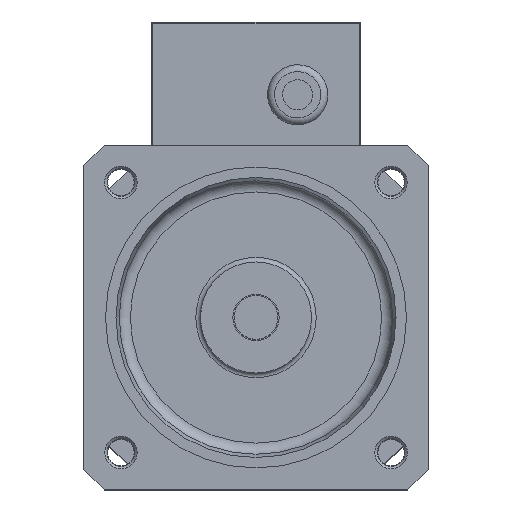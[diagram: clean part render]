
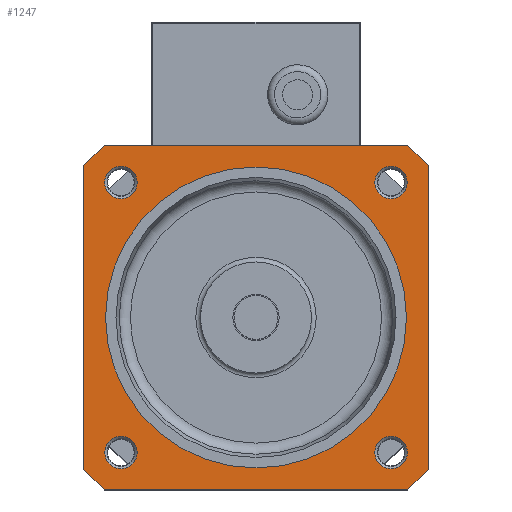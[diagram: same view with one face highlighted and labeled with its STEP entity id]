
A CAD part, top view. The second image highlights one B-rep face of the part: STEP entity #1247.
In plain terms, the highlighted planar face has unit normal (0, 0, 1).
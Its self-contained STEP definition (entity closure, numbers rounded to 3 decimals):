
#450=FACE_BOUND('',#3191,.T.);
#451=FACE_BOUND('',#3192,.T.);
#452=FACE_BOUND('',#3193,.T.);
#453=FACE_BOUND('',#3194,.T.);
#454=FACE_BOUND('',#3195,.T.);
#736=PLANE('',#14954);
#1247=ADVANCED_FACE('',(#450,#451,#452,#453,#454,#2452),#736,.T.);
#2452=FACE_OUTER_BOUND('',#3196,.T.);
#3191=EDGE_LOOP('',(#8082));
#3192=EDGE_LOOP('',(#8083));
#3193=EDGE_LOOP('',(#8084));
#3194=EDGE_LOOP('',(#8085));
#3195=EDGE_LOOP('',(#8086));
#3196=EDGE_LOOP('',(#8087,#8088,#8089,#8090,#8091,#8092,#8093,#8094));
#4346=LINE('',#22240,#5418);
#4347=LINE('',#22243,#5419);
#4348=LINE('',#22245,#5420);
#4349=LINE('',#22247,#5421);
#4350=LINE('',#22249,#5422);
#4351=LINE('',#22251,#5423);
#4352=LINE('',#22253,#5424);
#4353=LINE('',#22255,#5425);
#5418=VECTOR('',#18083,1.);
#5419=VECTOR('',#18084,1.);
#5420=VECTOR('',#18085,1.);
#5421=VECTOR('',#18086,1.);
#5422=VECTOR('',#18087,1.);
#5423=VECTOR('',#18088,1.);
#5424=VECTOR('',#18089,1.);
#5425=VECTOR('',#18090,1.);
#8082=ORIENTED_EDGE('',*,*,#12400,.T.);
#8083=ORIENTED_EDGE('',*,*,#12401,.T.);
#8084=ORIENTED_EDGE('',*,*,#12402,.T.);
#8085=ORIENTED_EDGE('',*,*,#12403,.T.);
#8086=ORIENTED_EDGE('',*,*,#12404,.F.);
#8087=ORIENTED_EDGE('',*,*,#12405,.F.);
#8088=ORIENTED_EDGE('',*,*,#12406,.T.);
#8089=ORIENTED_EDGE('',*,*,#12407,.F.);
#8090=ORIENTED_EDGE('',*,*,#12408,.T.);
#8091=ORIENTED_EDGE('',*,*,#12409,.F.);
#8092=ORIENTED_EDGE('',*,*,#12410,.T.);
#8093=ORIENTED_EDGE('',*,*,#12411,.F.);
#8094=ORIENTED_EDGE('',*,*,#12412,.T.);
#10652=VERTEX_POINT('',#22231);
#10653=VERTEX_POINT('',#22233);
#10654=VERTEX_POINT('',#22235);
#10655=VERTEX_POINT('',#22237);
#10656=VERTEX_POINT('',#22239);
#10657=VERTEX_POINT('',#22241);
#10658=VERTEX_POINT('',#22242);
#10659=VERTEX_POINT('',#22244);
#10660=VERTEX_POINT('',#22246);
#10661=VERTEX_POINT('',#22248);
#10662=VERTEX_POINT('',#22250);
#10663=VERTEX_POINT('',#22252);
#10664=VERTEX_POINT('',#22254);
#12400=EDGE_CURVE('',#10652,#10652,#13745,.T.);
#12401=EDGE_CURVE('',#10653,#10653,#13746,.T.);
#12402=EDGE_CURVE('',#10654,#10654,#13747,.T.);
#12403=EDGE_CURVE('',#10655,#10655,#13748,.T.);
#12404=EDGE_CURVE('',#10656,#10656,#13749,.T.);
#12405=EDGE_CURVE('',#10657,#10658,#4346,.T.);
#12406=EDGE_CURVE('',#10657,#10659,#4347,.T.);
#12407=EDGE_CURVE('',#10660,#10659,#4348,.T.);
#12408=EDGE_CURVE('',#10660,#10661,#4349,.T.);
#12409=EDGE_CURVE('',#10662,#10661,#4350,.T.);
#12410=EDGE_CURVE('',#10662,#10663,#4351,.T.);
#12411=EDGE_CURVE('',#10664,#10663,#4352,.T.);
#12412=EDGE_CURVE('',#10664,#10658,#4353,.T.);
#13745=CIRCLE('',#14949,6.991);
#13746=CIRCLE('',#14950,7.012);
#13747=CIRCLE('',#14951,6.991);
#13748=CIRCLE('',#14952,7.012);
#13749=CIRCLE('',#14953,65.);
#14949=AXIS2_PLACEMENT_3D('',#22230,#18073,#18074);
#14950=AXIS2_PLACEMENT_3D('',#22232,#18075,#18076);
#14951=AXIS2_PLACEMENT_3D('',#22234,#18077,#18078);
#14952=AXIS2_PLACEMENT_3D('',#22236,#18079,#18080);
#14953=AXIS2_PLACEMENT_3D('',#22238,#18081,#18082);
#14954=AXIS2_PLACEMENT_3D('',#22256,#18091,#18092);
#18073=DIRECTION('',(0.,0.,-1.));
#18074=DIRECTION('',(1.,0.,0.));
#18075=DIRECTION('',(0.,0.,-1.));
#18076=DIRECTION('',(1.,0.,0.));
#18077=DIRECTION('',(0.,0.,-1.));
#18078=DIRECTION('',(1.,0.,0.));
#18079=DIRECTION('',(0.,0.,-1.));
#18080=DIRECTION('',(1.,0.,0.));
#18081=DIRECTION('',(0.,0.,1.));
#18082=DIRECTION('',(1.,0.,0.));
#18083=DIRECTION('',(0.,1.,0.));
#18084=DIRECTION('',(0.707,-0.707,0.));
#18085=DIRECTION('',(-1.,0.,0.));
#18086=DIRECTION('',(0.707,0.707,0.));
#18087=DIRECTION('',(0.,-1.,0.));
#18088=DIRECTION('',(-0.707,0.707,0.));
#18089=DIRECTION('',(1.,0.,0.));
#18090=DIRECTION('',(-0.707,-0.707,0.));
#18091=DIRECTION('',(0.,0.,1.));
#18092=DIRECTION('',(1.,0.,0.));
#22230=CARTESIAN_POINT('',(132.836,132.836,12.));
#22231=CARTESIAN_POINT('',(139.827,132.836,12.));
#22232=CARTESIAN_POINT('',(132.836,16.164,12.));
#22233=CARTESIAN_POINT('',(139.848,16.164,12.));
#22234=CARTESIAN_POINT('',(16.164,16.164,12.));
#22235=CARTESIAN_POINT('',(23.155,16.164,12.));
#22236=CARTESIAN_POINT('',(16.164,132.836,12.));
#22237=CARTESIAN_POINT('',(23.175,132.836,12.));
#22238=CARTESIAN_POINT('',(74.5,74.5,12.));
#22239=CARTESIAN_POINT('',(139.5,74.5,12.));
#22240=CARTESIAN_POINT('',(0.,74.5,12.));
#22241=CARTESIAN_POINT('',(0.,8.99,12.));
#22242=CARTESIAN_POINT('',(0.,140.01,12.));
#22243=CARTESIAN_POINT('',(4.495,4.495,12.));
#22244=CARTESIAN_POINT('',(8.99,0.,12.));
#22245=CARTESIAN_POINT('',(74.5,0.,12.));
#22246=CARTESIAN_POINT('',(140.01,0.,12.));
#22247=CARTESIAN_POINT('',(144.505,4.495,12.));
#22248=CARTESIAN_POINT('',(149.,8.99,12.));
#22249=CARTESIAN_POINT('',(149.,74.5,12.));
#22250=CARTESIAN_POINT('',(149.,140.01,12.));
#22251=CARTESIAN_POINT('',(144.505,144.505,12.));
#22252=CARTESIAN_POINT('',(140.01,149.,12.));
#22253=CARTESIAN_POINT('',(74.5,149.,12.));
#22254=CARTESIAN_POINT('',(8.99,149.,12.));
#22255=CARTESIAN_POINT('',(4.495,144.505,12.));
#22256=CARTESIAN_POINT('',(74.5,74.5,12.));
